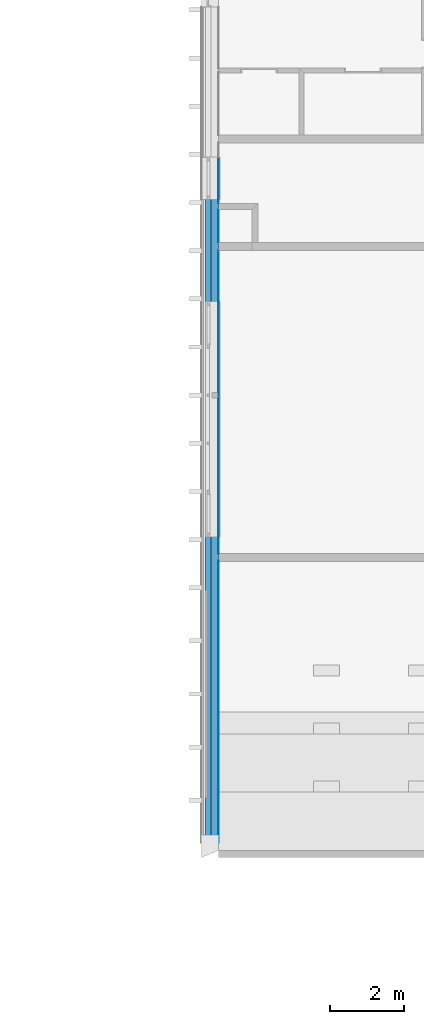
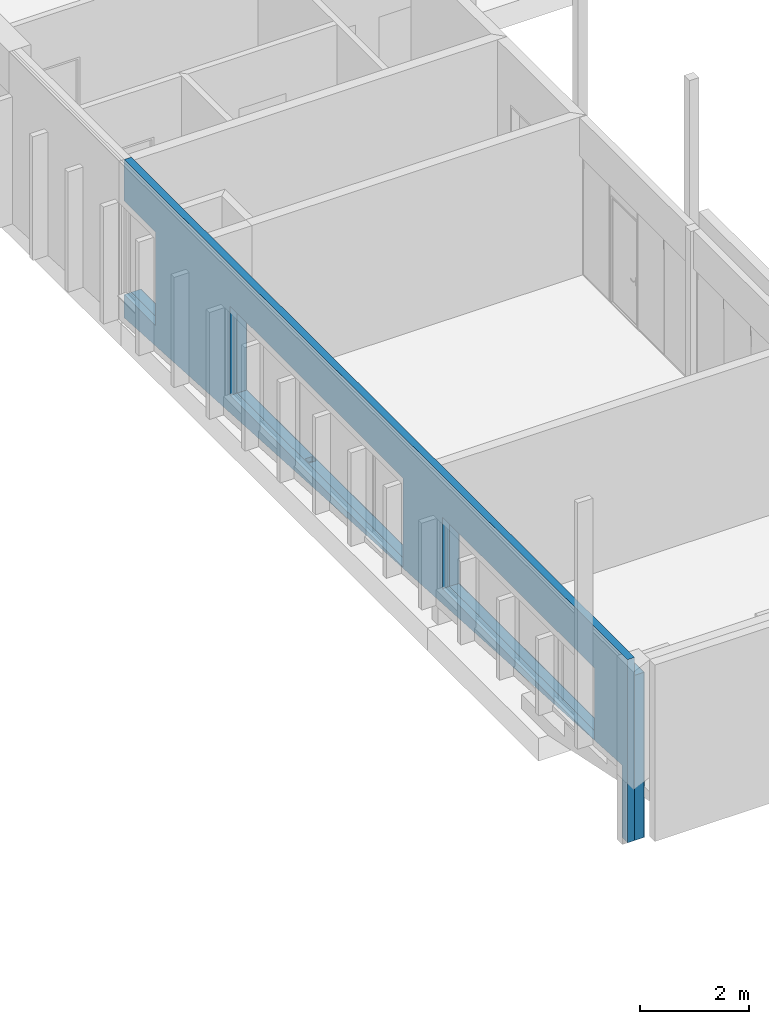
# One storey, part 61 of 65: 3 building element parts, 3 openings, 1 element without a shape of its own.
"""IFC2X3 building model written with IfcOpenShell, lengths in millimetres."""

from ifc_helpers import new_model, entity, si_unit, converted_unit, derived_unit, money_unit, direction, frame, origin_with_axes, origin_2d_with_axis, place, context, subcontext, project, spatial, polyline, rectangle, outline, extrude, boolean, faceted_brep, material, type_object, element, aggregate, save


model = new_model("IFC2X3")

# Units and contexts
model_context = context("Model", 3, precision=0.01, world=origin_with_axes(), true_north=direction((0.0, 1.0)))
body_context = subcontext(model_context, "Body", "Model", "MODEL_VIEW")
ifc_project = project(units=[si_unit("LENGTHUNIT", "METRE", prefix="MILLI"), si_unit("AREAUNIT", "SQUARE_METRE"), si_unit("VOLUMEUNIT", "CUBIC_METRE"), converted_unit("PLANEANGLEUNIT", "DEGREE", entity("IfcPlaneAngleMeasure", 0.0174532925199), si_unit("PLANEANGLEUNIT", "RADIAN"), dimensions=[0, 0, 0, 0, 0, 0, 0]), si_unit("SOLIDANGLEUNIT", "STERADIAN"), money_unit("EUR"), converted_unit("TIMEUNIT", "Year", entity("IfcTimeMeasure", 31556926.0), si_unit("TIMEUNIT", "SECOND"), dimensions=[0, 0, 1, 0, 0, 0, 0]), si_unit("MASSUNIT", "GRAM", prefix="KILO"), si_unit("THERMODYNAMICTEMPERATUREUNIT", "DEGREE_CELSIUS"), si_unit("LUMINOUSINTENSITYUNIT", "LUMEN"), si_unit("ENERGYUNIT", "JOULE", prefix="MEGA"), derived_unit("THERMALCONDUCTANCEUNIT", [(si_unit("POWERUNIT", "WATT"), 1), (si_unit("LENGTHUNIT", "METRE"), -1), (si_unit("THERMODYNAMICTEMPERATUREUNIT", "KELVIN"), -1)]), derived_unit("SPECIFICHEATCAPACITYUNIT", [(si_unit("ENERGYUNIT", "JOULE"), 1), (si_unit("MASSUNIT", "GRAM", prefix="KILO"), -1), (si_unit("THERMODYNAMICTEMPERATUREUNIT", "KELVIN"), -1)]), derived_unit("MASSDENSITYUNIT", [(si_unit("MASSUNIT", "GRAM", prefix="KILO"), 1), (si_unit("VOLUMEUNIT", "CUBIC_METRE"), -1)])], contexts=[model_context])

# Site, building, storey
site_placement = place(None, origin_with_axes())
site = spatial("IfcSite", under=ifc_project, at=site_placement, Name="Puškini 31, Narva", CompositionType="ELEMENT")
building_placement = place(site_placement, origin_with_axes())
building = spatial("IfcBuilding", under=site, at=building_placement, Name="Narva Riigigümnaasium", CompositionType="ELEMENT")
storey_placement = place(building_placement, frame((0.0, 0.0, -1320.0), z_axis=(0.0, 0.0, 1.0), x_axis=(1.0, 0.0, 0.0)))
storey = spatial("IfcBuildingStorey", under=building, at=storey_placement, Name="1.korrus -1.32", CompositionType="ELEMENT", Elevation=-1320.0)

# Wall, openings, building element parts
wall_type = type_object("IfcWallType", Name="G-VS-01 468", PredefinedType="NOTDEFINED")
wall_placement = place(storey_placement, frame((22399.9999985, 159399.999992, -150.0), z_axis=(0.0, 0.0, 1.0), x_axis=(0.0, 1.0, 0.0)))
wall = element("IfcWall", 1, at=wall_placement, inside=storey, type_object=wall_type, Name="Välissein")
opening_1_placement = place(wall_placement, frame((11435.1499909, 0.0, 1180.0), z_axis=(0.0, 0.0, 1.0), x_axis=(1.0, 0.0, 0.0)))
element("IfcOpeningElement", 2, at=opening_1_placement, cuts=wall, Name="G-A-34", context=body_context, shape_type="SweptSolid", body=[
    extrude(rectangle(XDim=6350.0, YDim=2000.0, at=origin_2d_with_axis()), frame((0.0, 308.0, 1000.0), z_axis=(0.0, 1.0, 0.0), x_axis=(-1.0, 0.0, 0.0)), (0.0, 0.0, -1.0), 786.0),
    extrude(rectangle(XDim=6350.0, YDim=2000.0, at=origin_2d_with_axis()), frame((0.0, 308.0, 1000.0), z_axis=(0.0, -1.0, 0.0), x_axis=(-1.0, 0.0, 0.0)), (0.0, 0.0, -1.0), 618.0),
])
opening_2_placement = place(wall_placement, frame((17935.1499909, 0.0, 1080.0), z_axis=(0.0, 0.0, 1.0), x_axis=(1.0, 0.0, 0.0)))
element("IfcOpeningElement", 3, at=opening_2_placement, cuts=wall, Name="G-A-29", context=body_context, shape_type="SweptSolid", body=[
    extrude(rectangle(XDim=1150.0, YDim=2100.0, at=origin_2d_with_axis()), frame((0.0, 308.0, 1050.0), z_axis=(0.0, 1.0, 0.0), x_axis=(-1.0, 0.0, 0.0)), (0.0, 0.0, -1.0), 786.0),
    extrude(rectangle(XDim=1150.0, YDim=2100.0, at=origin_2d_with_axis()), frame((0.0, 308.0, 1050.0), z_axis=(0.0, -1.0, 0.0), x_axis=(-1.0, 0.0, 0.0)), (0.0, 0.0, -1.0), 618.0),
])
opening_3_placement = place(wall_placement, frame((4017.57498516, 0.0, 1570.0), z_axis=(0.0, 0.0, 1.0), x_axis=(1.0, 0.0, 0.0)))
element("IfcOpeningElement", 4, at=opening_3_placement, cuts=wall, Name="G-A-33", context=body_context, shape_type="SweptSolid", body=[
    extrude(rectangle(XDim=5585.15001141, YDim=1610.0, at=origin_2d_with_axis()), frame((0.0, 308.0, 805.0), z_axis=(0.0, 1.0, 0.0), x_axis=(-1.0, 0.0, 0.0)), (0.0, 0.0, -1.0), 786.0),
    extrude(rectangle(XDim=5585.15001141, YDim=1610.0, at=origin_2d_with_axis()), frame((0.0, 308.0, 805.0), z_axis=(0.0, -1.0, 0.0), x_axis=(-1.0, 0.0, 0.0)), (0.0, 0.0, -1.0), 618.0),
])
ifc_material_1 = material(Name="Salto-siseviimistlus-seinad")
building_element_part_1_placement = place(wall_placement, origin_with_axes())
solid_1 = boolean("DIFFERENCE", boolean("DIFFERENCE", boolean("DIFFERENCE", boolean("DIFFERENCE", boolean("DIFFERENCE", boolean("DIFFERENCE", boolean("DIFFERENCE", boolean("DIFFERENCE", extrude(outline(polyline([(-249.999991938, -10.0), (18510.1499995, -10.0), (18510.1499995, 0.0), (-249.999991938, 0.0), (-249.999991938, -10.0)])), origin_with_axes(), (0.0, 0.0, 1.0), 4110.0), faceted_brep([(17250.0001235, 0.0, 632.298081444), (18510.1499995, 0.0, 559.236469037), (18510.1499995, 0.0, 0.0), (210.000008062, 0.0, 0.0), (210.000008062, 0.0, 1620.25190156), (7609.99994589, 0.0, 1191.21092985), (7609.99994359, 0.0, 3705.0), (1.23677068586e-06, 0.0, 3705.0), (8.06181787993e-06, 0.0, 1470.0), (8.06181787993e-06, 0.0, 640.0), (0.0, 0.0, 0.0), (-249.999991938, 0.0, 0.0), (-249.999991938, 0.0, 4110.0), (18510.1499995, 0.0, 4110.0), (18510.1499995, 0.0, 3705.0), (17250.0001235, 0.0, 3705.0), (7799.99994358, 0.0, 1180.19501305), (16000.0001235, 0.0, 704.771219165), (16000.0001235, 0.0, 3705.0), (7799.99994358, 0.0, 3705.0), (16200.0001235, 0.0, 693.17551713), (17100.0001235, 0.0, 640.994857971), (17100.0001235, 0.0, 3705.0), (16200.0001235, 0.0, 3705.0), (17250.0001235, -10.0, 632.298081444), (18510.1499995, -10.0, 559.236469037), (18510.1499995, -10.0, 0.0), (210.000008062, -10.0, 0.0), (210.000008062, -10.0, 1620.25190156), (7609.99994589, -10.0, 1191.21092985), (7609.99994359, -10.0, 3705.0), (1.23677068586e-06, -10.0, 3705.0), (8.06181787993e-06, -10.0, 1470.0), (8.06181787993e-06, -10.0, 640.0), (0.0, -10.0, 0.0), (-249.999991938, -10.0, 0.0), (-249.999991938, -10.0, 4110.0), (18510.1499995, -10.0, 4110.0), (18510.1499995, -9.99999999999, 3705.0), (17250.0001235, -10.0, 3705.0), (7799.99994358, -10.0, 1180.19501305), (16000.0001235, -10.0, 704.771219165), (16000.0001235, -10.0, 3705.0), (7799.99994358, -10.0, 3705.0), (16200.0001235, -10.0, 693.17551713), (17100.0001235, -10.0, 640.994857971), (17100.0001235, -10.0, 3705.0), (16200.0001235, -10.0, 3705.0)], [[[0, 1, 2, 3, 4, 5, 6, 7, 8, 9, 10, 11, 12, 13, 14, 15], [16, 17, 18, 19], [20, 21, 22, 23]], [[24, 25, 1, 0]], [[1, 25, 26, 2]], [[27, 3, 2, 26]], [[27, 28, 4, 3]], [[28, 29, 5, 4]], [[29, 30, 6, 5]], [[30, 31, 7, 6]], [[31, 32, 33, 34, 10, 9, 8, 7]], [[10, 34, 35, 11]], [[36, 12, 11, 35]], [[13, 12, 36, 37]], [[38, 14, 13, 37]], [[14, 38, 39, 15]], [[39, 24, 0, 15]], [[40, 41, 17, 16]], [[41, 42, 18, 17]], [[42, 43, 19, 18]], [[43, 40, 16, 19]], [[44, 45, 21, 20]], [[45, 46, 22, 21]], [[46, 47, 23, 22]], [[47, 44, 20, 23]], [[24, 39, 38, 37, 36, 35, 34, 33, 32, 31, 30, 29, 28, 27, 26, 25], [40, 43, 42, 41], [44, 47, 46, 45]]])), faceted_brep([(18510.1499995, 200.0, 559.236469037), (18510.1499995, 0.0, 559.236469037), (18510.1499995, 0.0, 0.0), (18510.1499995, 200.0, 0.0), (17250.0001235, 0.0, 632.298081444), (210.000008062, 200.0, 1620.25190156), (210.000008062, 0.0, 1620.25190156), (7609.99994589, 0.0, 1191.21092985), (7799.99994358, 0.0, 1180.19501305), (16000.0001235, 0.0, 704.771219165), (16200.0001235, 0.0, 693.17551713), (17100.0001235, 0.0, 640.994857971), (210.000008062, 0.0, 0.0), (210.000008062, 200.0, 0.0)], [[[0, 1, 2, 3]], [[4, 1, 0, 5, 6, 7, 8, 9, 10, 11]], [[6, 12, 2, 1, 4, 11, 10, 9, 8, 7]], [[12, 13, 3, 2]], [[5, 0, 3, 13]], [[12, 6, 5, 13]]])), faceted_brep([(18510.1499995, 0.0, 3705.0), (18510.1499995, 0.0, 4110.0), (-249.999991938, 0.0, 4110.0), (-249.999991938, 0.0, 0.0), (0.0, 0.0, 0.0), (8.06181787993e-06, 0.0, 640.0), (8.06181787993e-06, 0.0, 1470.0), (1.23677068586e-06, 0.0, 3705.0), (18510.1499995, 199.999955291, 3705.0), (18510.1499995, 200.0, 4110.0), (-249.999991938, 200.0, 4110.0), (-249.999991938, 200.0, 0.0), (0.0, 200.0, 0.0), (8.06181787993e-06, 200.0, 640.0), (8.06181787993e-06, 200.0, 1470.0), (1.23674226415e-06, 199.999955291, 3705.0)], [[[0, 1, 2, 3, 4, 5, 6, 7]], [[0, 8, 9, 1]], [[9, 10, 2, 1]], [[2, 10, 11, 3]], [[12, 4, 3, 11]], [[5, 4, 12, 13]], [[13, 14, 6, 5]], [[7, 6, 14, 15]], [[8, 0, 7, 15]], [[13, 12, 11, 10, 9, 8, 15, 14]]])), faceted_brep([(12010.1512799, 25.0, 3250.0), (12010.1512799, 175.0, 3250.0), (12010.1512799, 175.0, 1080.0), (12010.1512799, 25.0, 1080.0), (12160.1512799, 25.0, 3250.0), (12160.1512799, 175.0, 3250.0), (12160.1512799, 175.0, 1080.0), (12160.1512799, 25.0, 1080.0)], [[[0, 1, 2, 3]], [[4, 5, 1, 0]], [[1, 5, 6, 2]], [[7, 3, 2, 6]], [[4, 0, 3, 7]], [[5, 4, 7, 6]]])), faceted_brep([(8.06181787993e-06, 200.0, 1470.0), (1.23674226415e-06, 199.999955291, 3705.0), (0.0, 200.0, 4110.0), (-249.999991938, 200.0, 4110.0), (-249.999991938, 200.0, 0.0), (0.0, 200.0, 0.0), (8.06181787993e-06, 200.0, 640.0), (0.0, 350.0, 4110.0), (8.06181787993e-06, 350.0, 1470.0), (-249.999991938, 350.0, 4110.0), (-249.999991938, 350.0, 0.0), (0.0, 350.0, 0.0), (8.06181787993e-06, 350.0, 640.0)], [[[0, 1, 2, 3, 4, 5, 6]], [[7, 2, 1, 0, 8]], [[2, 7, 9, 3]], [[3, 9, 10, 4]], [[11, 5, 4, 10]], [[6, 5, 11, 12]], [[12, 8, 0, 6]], [[12, 11, 10, 9, 7, 8]]])), faceted_brep([(18510.1499995, 350.0, 559.236469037), (18510.1499995, 200.0, 559.236469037), (18510.1499995, 200.0, 0.0), (18510.1499995, 350.0, 0.0), (210.000008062, 200.0, 1620.25190156), (210.000008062, 350.0, 1620.25190156), (210.000008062, 200.0, 0.0), (210.000008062, 350.0, 0.0)], [[[0, 1, 2, 3]], [[4, 1, 0, 5]], [[4, 6, 2, 1]], [[6, 7, 3, 2]], [[5, 0, 3, 7]], [[6, 4, 5, 7]]])), faceted_brep([(8.06181787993e-06, 350.0, 640.0), (8.06181787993e-06, 350.0, 1470.0), (0.0, 350.0, 4110.0), (-249.999991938, 350.0, 4110.0), (-249.999991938, 350.0, 0.0), (0.0, 350.0, 0.0), (8.06181787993e-06, 400.0, 640.0), (8.06181787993e-06, 400.0, 1470.0), (0.0, 400.0, 4110.0), (-249.999991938, 400.0, 4110.0), (-249.999991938, 400.0, 0.0), (0.0, 400.0, 0.0)], [[[0, 1, 2, 3, 4, 5]], [[1, 0, 6, 7]], [[8, 2, 1, 7]], [[2, 8, 9, 3]], [[3, 9, 10, 4]], [[11, 5, 4, 10]], [[0, 5, 11, 6]], [[6, 11, 10, 9, 8, 7]]])), faceted_brep([(18510.1499995, 400.0, 559.236469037), (18510.1499995, 350.0, 559.236469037), (18510.1499995, 350.0, 0.0), (18510.1499995, 400.0, 0.0), (210.000008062, 350.0, 1620.25190156), (210.000008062, 400.0, 1620.25190156), (210.000008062, 350.0, 0.0), (210.000008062, 400.0, 0.0)], [[[0, 1, 2, 3]], [[4, 1, 0, 5]], [[4, 6, 2, 1]], [[6, 7, 3, 2]], [[5, 0, 3, 7]], [[6, 4, 5, 7]]]))
building_element_part_1 = element("IfcBuildingElementPart", 5, at=building_element_part_1_placement, material=ifc_material_1, Name="Salto-siseviimistlus-seinad", context=body_context, shape_type="CSG", body=[
    boolean("DIFFERENCE", boolean("DIFFERENCE", boolean("DIFFERENCE", boolean("DIFFERENCE", solid_1, faceted_brep([(8.06181787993e-06, 400.0, 640.0), (8.06181787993e-06, 400.0, 1470.0), (0.0, 400.0, 4110.0), (-249.999991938, 400.0, 4110.0), (-249.999991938, 400.0, 0.0), (0.0, 400.0, 0.0), (8.06181787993e-06, 450.0, 640.0), (8.06181787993e-06, 450.0, 1470.0), (0.0, 450.0, 4110.0), (-249.999991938, 450.0, 4110.0), (-249.999991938, 450.0, 0.0), (0.0, 450.0, 0.0)], [[[0, 1, 2, 3, 4, 5]], [[1, 0, 6, 7]], [[8, 2, 1, 7]], [[2, 8, 9, 3]], [[9, 10, 4, 3]], [[11, 5, 4, 10]], [[0, 5, 11, 6]], [[6, 11, 10, 9, 8, 7]]])), faceted_brep([(18510.1499995, 450.0, 559.236469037), (18510.1499995, 400.0, 559.236469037), (18510.1499995, 400.0, 0.0), (18510.1499995, 450.0, 0.0), (210.000008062, 400.0, 1620.25190156), (210.000008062, 450.0, 1620.25190156), (210.000008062, 400.0, 0.0), (210.000008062, 450.0, 0.0)], [[[0, 1, 2, 3]], [[4, 1, 0, 5]], [[4, 6, 2, 1]], [[6, 7, 3, 2]], [[5, 0, 3, 7]], [[6, 4, 5, 7]]])), faceted_brep([(8.06181787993e-06, 450.0, 640.0), (8.06181787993e-06, 450.0, 1470.0), (0.0, 450.0, 4110.0), (-249.999991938, 450.0, 4110.0), (-249.999991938, 450.0, 0.0), (0.0, 450.0, 0.0), (8.06181787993e-06, 458.0, 640.0), (8.06181787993e-06, 458.0, 1470.0), (0.0, 458.0, 4110.0), (-249.999991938, 458.0, 4110.0), (-249.999991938, 458.0, 0.0), (0.0, 458.0, 0.0)], [[[0, 1, 2, 3, 4, 5]], [[1, 0, 6, 7]], [[8, 2, 1, 7]], [[2, 8, 9, 3]], [[9, 10, 4, 3]], [[11, 5, 4, 10]], [[0, 5, 11, 6]], [[6, 11, 10, 9, 8, 7]]])), faceted_brep([(18510.1499995, 458.0, 559.236469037), (18510.1499995, 450.0, 559.236469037), (18510.1499995, 450.0, 0.0), (18510.1499995, 458.0, 0.0), (210.000008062, 450.0, 1620.25190156), (210.000008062, 458.0, 1620.25190156), (210.000008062, 450.0, 0.0), (210.000008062, 458.0, 0.0)], [[[0, 1, 2, 3]], [[4, 1, 0, 5]], [[4, 6, 2, 1]], [[6, 7, 3, 2]], [[5, 0, 3, 7]], [[6, 4, 5, 7]]])),
])
ifc_material_2 = material(Name="Betoon element")
building_element_part_2_placement = place(wall_placement, origin_with_axes())
solid_2 = boolean("DIFFERENCE", boolean("DIFFERENCE", boolean("DIFFERENCE", boolean("DIFFERENCE", boolean("DIFFERENCE", boolean("DIFFERENCE", boolean("DIFFERENCE", boolean("DIFFERENCE", extrude(outline(polyline([(-249.999991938, 0.0), (18510.1499995, 0.0), (18510.1499995, 200.0), (-249.999991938, 200.0), (-249.999991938, 0.0)])), origin_with_axes(), (0.0, 0.0, 1.0), 4110.0), faceted_brep([(17250.0001235, 0.0, 632.298081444), (18510.1499995, 0.0, 559.236469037), (18510.1499995, 0.0, 0.0), (210.000008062, 0.0, 0.0), (210.000008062, 0.0, 1620.25190156), (7609.99994589, 0.0, 1191.21092985), (7609.99994359, 0.0, 3705.0), (1.23677068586e-06, 0.0, 3705.0), (8.06181787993e-06, 0.0, 1470.0), (8.06181787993e-06, 0.0, 640.0), (0.0, 0.0, 0.0), (-249.999991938, 0.0, 0.0), (-249.999991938, 0.0, 4110.0), (18510.1499995, 0.0, 4110.0), (18510.1499995, 0.0, 3705.0), (17250.0001235, 0.0, 3705.0), (7799.99994358, 0.0, 1180.19501305), (16000.0001235, 0.0, 704.771219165), (16000.0001235, 0.0, 3705.0), (7799.99994358, 0.0, 3705.0), (16200.0001235, 0.0, 693.17551713), (17100.0001235, 0.0, 640.994857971), (17100.0001235, 0.0, 3705.0), (16200.0001235, 0.0, 3705.0), (17250.0001235, -10.0, 632.298081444), (18510.1499995, -10.0, 559.236469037), (18510.1499995, -10.0, 0.0), (210.000008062, -10.0, 0.0), (210.000008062, -10.0, 1620.25190156), (7609.99994589, -10.0, 1191.21092985), (7609.99994359, -10.0, 3705.0), (1.23677068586e-06, -10.0, 3705.0), (8.06181787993e-06, -10.0, 1470.0), (8.06181787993e-06, -10.0, 640.0), (0.0, -10.0, 0.0), (-249.999991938, -10.0, 0.0), (-249.999991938, -10.0, 4110.0), (18510.1499995, -10.0, 4110.0), (18510.1499995, -9.99999999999, 3705.0), (17250.0001235, -10.0, 3705.0), (7799.99994358, -10.0, 1180.19501305), (16000.0001235, -10.0, 704.771219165), (16000.0001235, -10.0, 3705.0), (7799.99994358, -10.0, 3705.0), (16200.0001235, -10.0, 693.17551713), (17100.0001235, -10.0, 640.994857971), (17100.0001235, -10.0, 3705.0), (16200.0001235, -10.0, 3705.0)], [[[0, 1, 2, 3, 4, 5, 6, 7, 8, 9, 10, 11, 12, 13, 14, 15], [16, 17, 18, 19], [20, 21, 22, 23]], [[24, 25, 1, 0]], [[1, 25, 26, 2]], [[27, 3, 2, 26]], [[27, 28, 4, 3]], [[28, 29, 5, 4]], [[29, 30, 6, 5]], [[30, 31, 7, 6]], [[31, 32, 33, 34, 10, 9, 8, 7]], [[10, 34, 35, 11]], [[36, 12, 11, 35]], [[13, 12, 36, 37]], [[38, 14, 13, 37]], [[14, 38, 39, 15]], [[39, 24, 0, 15]], [[40, 41, 17, 16]], [[41, 42, 18, 17]], [[42, 43, 19, 18]], [[43, 40, 16, 19]], [[44, 45, 21, 20]], [[45, 46, 22, 21]], [[46, 47, 23, 22]], [[47, 44, 20, 23]], [[24, 39, 38, 37, 36, 35, 34, 33, 32, 31, 30, 29, 28, 27, 26, 25], [40, 43, 42, 41], [44, 47, 46, 45]]])), faceted_brep([(18510.1499995, 200.0, 559.236469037), (18510.1499995, 0.0, 559.236469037), (18510.1499995, 0.0, 0.0), (18510.1499995, 200.0, 0.0), (17250.0001235, 0.0, 632.298081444), (210.000008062, 200.0, 1620.25190156), (210.000008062, 0.0, 1620.25190156), (7609.99994589, 0.0, 1191.21092985), (7799.99994358, 0.0, 1180.19501305), (16000.0001235, 0.0, 704.771219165), (16200.0001235, 0.0, 693.17551713), (17100.0001235, 0.0, 640.994857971), (210.000008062, 0.0, 0.0), (210.000008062, 200.0, 0.0)], [[[0, 1, 2, 3]], [[4, 1, 0, 5, 6, 7, 8, 9, 10, 11]], [[6, 12, 2, 1, 4, 11, 10, 9, 8, 7]], [[12, 13, 3, 2]], [[5, 0, 3, 13]], [[12, 6, 5, 13]]])), faceted_brep([(18510.1499995, 0.0, 3705.0), (18510.1499995, 0.0, 4110.0), (-249.999991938, 0.0, 4110.0), (-249.999991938, 0.0, 0.0), (0.0, 0.0, 0.0), (8.06181787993e-06, 0.0, 640.0), (8.06181787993e-06, 0.0, 1470.0), (1.23677068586e-06, 0.0, 3705.0), (18510.1499995, 199.999955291, 3705.0), (18510.1499995, 200.0, 4110.0), (-249.999991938, 200.0, 4110.0), (-249.999991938, 200.0, 0.0), (0.0, 200.0, 0.0), (8.06181787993e-06, 200.0, 640.0), (8.06181787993e-06, 200.0, 1470.0), (1.23674226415e-06, 199.999955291, 3705.0)], [[[0, 1, 2, 3, 4, 5, 6, 7]], [[0, 8, 9, 1]], [[9, 10, 2, 1]], [[2, 10, 11, 3]], [[12, 4, 3, 11]], [[5, 4, 12, 13]], [[13, 14, 6, 5]], [[7, 6, 14, 15]], [[8, 0, 7, 15]], [[13, 12, 11, 10, 9, 8, 15, 14]]])), faceted_brep([(12010.1512799, 25.0, 3250.0), (12010.1512799, 175.0, 3250.0), (12010.1512799, 175.0, 1080.0), (12010.1512799, 25.0, 1080.0), (12160.1512799, 25.0, 3250.0), (12160.1512799, 175.0, 3250.0), (12160.1512799, 175.0, 1080.0), (12160.1512799, 25.0, 1080.0)], [[[0, 1, 2, 3]], [[4, 5, 1, 0]], [[1, 5, 6, 2]], [[7, 3, 2, 6]], [[4, 0, 3, 7]], [[5, 4, 7, 6]]])), faceted_brep([(8.06181787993e-06, 200.0, 1470.0), (1.23674226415e-06, 199.999955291, 3705.0), (0.0, 200.0, 4110.0), (-249.999991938, 200.0, 4110.0), (-249.999991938, 200.0, 0.0), (0.0, 200.0, 0.0), (8.06181787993e-06, 200.0, 640.0), (0.0, 350.0, 4110.0), (8.06181787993e-06, 350.0, 1470.0), (-249.999991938, 350.0, 4110.0), (-249.999991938, 350.0, 0.0), (0.0, 350.0, 0.0), (8.06181787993e-06, 350.0, 640.0)], [[[0, 1, 2, 3, 4, 5, 6]], [[7, 2, 1, 0, 8]], [[2, 7, 9, 3]], [[3, 9, 10, 4]], [[11, 5, 4, 10]], [[6, 5, 11, 12]], [[12, 8, 0, 6]], [[12, 11, 10, 9, 7, 8]]])), faceted_brep([(18510.1499995, 350.0, 559.236469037), (18510.1499995, 200.0, 559.236469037), (18510.1499995, 200.0, 0.0), (18510.1499995, 350.0, 0.0), (210.000008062, 200.0, 1620.25190156), (210.000008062, 350.0, 1620.25190156), (210.000008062, 200.0, 0.0), (210.000008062, 350.0, 0.0)], [[[0, 1, 2, 3]], [[4, 1, 0, 5]], [[4, 6, 2, 1]], [[6, 7, 3, 2]], [[5, 0, 3, 7]], [[6, 4, 5, 7]]])), faceted_brep([(8.06181787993e-06, 350.0, 640.0), (8.06181787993e-06, 350.0, 1470.0), (0.0, 350.0, 4110.0), (-249.999991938, 350.0, 4110.0), (-249.999991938, 350.0, 0.0), (0.0, 350.0, 0.0), (8.06181787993e-06, 400.0, 640.0), (8.06181787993e-06, 400.0, 1470.0), (0.0, 400.0, 4110.0), (-249.999991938, 400.0, 4110.0), (-249.999991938, 400.0, 0.0), (0.0, 400.0, 0.0)], [[[0, 1, 2, 3, 4, 5]], [[1, 0, 6, 7]], [[8, 2, 1, 7]], [[2, 8, 9, 3]], [[3, 9, 10, 4]], [[11, 5, 4, 10]], [[0, 5, 11, 6]], [[6, 11, 10, 9, 8, 7]]])), faceted_brep([(18510.1499995, 400.0, 559.236469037), (18510.1499995, 350.0, 559.236469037), (18510.1499995, 350.0, 0.0), (18510.1499995, 400.0, 0.0), (210.000008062, 350.0, 1620.25190156), (210.000008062, 400.0, 1620.25190156), (210.000008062, 350.0, 0.0), (210.000008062, 400.0, 0.0)], [[[0, 1, 2, 3]], [[4, 1, 0, 5]], [[4, 6, 2, 1]], [[6, 7, 3, 2]], [[5, 0, 3, 7]], [[6, 4, 5, 7]]]))
building_element_part_2 = element("IfcBuildingElementPart", 6, at=building_element_part_2_placement, material=ifc_material_2, Name="Betoon element", context=body_context, shape_type="CSG", body=[
    boolean("DIFFERENCE", boolean("DIFFERENCE", boolean("DIFFERENCE", boolean("DIFFERENCE", solid_2, faceted_brep([(8.06181787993e-06, 400.0, 640.0), (8.06181787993e-06, 400.0, 1470.0), (0.0, 400.0, 4110.0), (-249.999991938, 400.0, 4110.0), (-249.999991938, 400.0, 0.0), (0.0, 400.0, 0.0), (8.06181787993e-06, 450.0, 640.0), (8.06181787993e-06, 450.0, 1470.0), (0.0, 450.0, 4110.0), (-249.999991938, 450.0, 4110.0), (-249.999991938, 450.0, 0.0), (0.0, 450.0, 0.0)], [[[0, 1, 2, 3, 4, 5]], [[1, 0, 6, 7]], [[8, 2, 1, 7]], [[2, 8, 9, 3]], [[9, 10, 4, 3]], [[11, 5, 4, 10]], [[0, 5, 11, 6]], [[6, 11, 10, 9, 8, 7]]])), faceted_brep([(18510.1499995, 450.0, 559.236469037), (18510.1499995, 400.0, 559.236469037), (18510.1499995, 400.0, 0.0), (18510.1499995, 450.0, 0.0), (210.000008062, 400.0, 1620.25190156), (210.000008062, 450.0, 1620.25190156), (210.000008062, 400.0, 0.0), (210.000008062, 450.0, 0.0)], [[[0, 1, 2, 3]], [[4, 1, 0, 5]], [[4, 6, 2, 1]], [[6, 7, 3, 2]], [[5, 0, 3, 7]], [[6, 4, 5, 7]]])), faceted_brep([(8.06181787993e-06, 450.0, 640.0), (8.06181787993e-06, 450.0, 1470.0), (0.0, 450.0, 4110.0), (-249.999991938, 450.0, 4110.0), (-249.999991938, 450.0, 0.0), (0.0, 450.0, 0.0), (8.06181787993e-06, 458.0, 640.0), (8.06181787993e-06, 458.0, 1470.0), (0.0, 458.0, 4110.0), (-249.999991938, 458.0, 4110.0), (-249.999991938, 458.0, 0.0), (0.0, 458.0, 0.0)], [[[0, 1, 2, 3, 4, 5]], [[1, 0, 6, 7]], [[8, 2, 1, 7]], [[2, 8, 9, 3]], [[9, 10, 4, 3]], [[11, 5, 4, 10]], [[0, 5, 11, 6]], [[6, 11, 10, 9, 8, 7]]])), faceted_brep([(18510.1499995, 458.0, 559.236469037), (18510.1499995, 450.0, 559.236469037), (18510.1499995, 450.0, 0.0), (18510.1499995, 458.0, 0.0), (210.000008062, 450.0, 1620.25190156), (210.000008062, 458.0, 1620.25190156), (210.000008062, 450.0, 0.0), (210.000008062, 458.0, 0.0)], [[[0, 1, 2, 3]], [[4, 1, 0, 5]], [[4, 6, 2, 1]], [[6, 7, 3, 2]], [[5, 0, 3, 7]], [[6, 4, 5, 7]]])),
])
ifc_material_3 = material(Name="Salto-PIR soojustus")
building_element_part_3_placement = place(wall_placement, origin_with_axes())
solid_3 = boolean("DIFFERENCE", boolean("DIFFERENCE", boolean("DIFFERENCE", boolean("DIFFERENCE", boolean("DIFFERENCE", boolean("DIFFERENCE", boolean("DIFFERENCE", boolean("DIFFERENCE", extrude(outline(polyline([(-249.999991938, 200.0), (18510.1499995, 200.0), (18510.1499995, 350.0), (-249.999991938, 350.0), (-249.999991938, 200.0)])), origin_with_axes(), (0.0, 0.0, 1.0), 4110.0), faceted_brep([(17250.0001235, 0.0, 632.298081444), (18510.1499995, 0.0, 559.236469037), (18510.1499995, 0.0, 0.0), (210.000008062, 0.0, 0.0), (210.000008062, 0.0, 1620.25190156), (7609.99994589, 0.0, 1191.21092985), (7609.99994359, 0.0, 3705.0), (1.23677068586e-06, 0.0, 3705.0), (8.06181787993e-06, 0.0, 1470.0), (8.06181787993e-06, 0.0, 640.0), (0.0, 0.0, 0.0), (-249.999991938, 0.0, 0.0), (-249.999991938, 0.0, 4110.0), (18510.1499995, 0.0, 4110.0), (18510.1499995, 0.0, 3705.0), (17250.0001235, 0.0, 3705.0), (7799.99994358, 0.0, 1180.19501305), (16000.0001235, 0.0, 704.771219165), (16000.0001235, 0.0, 3705.0), (7799.99994358, 0.0, 3705.0), (16200.0001235, 0.0, 693.17551713), (17100.0001235, 0.0, 640.994857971), (17100.0001235, 0.0, 3705.0), (16200.0001235, 0.0, 3705.0), (17250.0001235, -10.0, 632.298081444), (18510.1499995, -10.0, 559.236469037), (18510.1499995, -10.0, 0.0), (210.000008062, -10.0, 0.0), (210.000008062, -10.0, 1620.25190156), (7609.99994589, -10.0, 1191.21092985), (7609.99994359, -10.0, 3705.0), (1.23677068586e-06, -10.0, 3705.0), (8.06181787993e-06, -10.0, 1470.0), (8.06181787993e-06, -10.0, 640.0), (0.0, -10.0, 0.0), (-249.999991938, -10.0, 0.0), (-249.999991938, -10.0, 4110.0), (18510.1499995, -10.0, 4110.0), (18510.1499995, -9.99999999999, 3705.0), (17250.0001235, -10.0, 3705.0), (7799.99994358, -10.0, 1180.19501305), (16000.0001235, -10.0, 704.771219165), (16000.0001235, -10.0, 3705.0), (7799.99994358, -10.0, 3705.0), (16200.0001235, -10.0, 693.17551713), (17100.0001235, -10.0, 640.994857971), (17100.0001235, -10.0, 3705.0), (16200.0001235, -10.0, 3705.0)], [[[0, 1, 2, 3, 4, 5, 6, 7, 8, 9, 10, 11, 12, 13, 14, 15], [16, 17, 18, 19], [20, 21, 22, 23]], [[24, 25, 1, 0]], [[1, 25, 26, 2]], [[27, 3, 2, 26]], [[27, 28, 4, 3]], [[28, 29, 5, 4]], [[29, 30, 6, 5]], [[30, 31, 7, 6]], [[31, 32, 33, 34, 10, 9, 8, 7]], [[10, 34, 35, 11]], [[36, 12, 11, 35]], [[13, 12, 36, 37]], [[38, 14, 13, 37]], [[14, 38, 39, 15]], [[39, 24, 0, 15]], [[40, 41, 17, 16]], [[41, 42, 18, 17]], [[42, 43, 19, 18]], [[43, 40, 16, 19]], [[44, 45, 21, 20]], [[45, 46, 22, 21]], [[46, 47, 23, 22]], [[47, 44, 20, 23]], [[24, 39, 38, 37, 36, 35, 34, 33, 32, 31, 30, 29, 28, 27, 26, 25], [40, 43, 42, 41], [44, 47, 46, 45]]])), faceted_brep([(18510.1499995, 200.0, 559.236469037), (18510.1499995, 0.0, 559.236469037), (18510.1499995, 0.0, 0.0), (18510.1499995, 200.0, 0.0), (17250.0001235, 0.0, 632.298081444), (210.000008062, 200.0, 1620.25190156), (210.000008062, 0.0, 1620.25190156), (7609.99994589, 0.0, 1191.21092985), (7799.99994358, 0.0, 1180.19501305), (16000.0001235, 0.0, 704.771219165), (16200.0001235, 0.0, 693.17551713), (17100.0001235, 0.0, 640.994857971), (210.000008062, 0.0, 0.0), (210.000008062, 200.0, 0.0)], [[[0, 1, 2, 3]], [[4, 1, 0, 5, 6, 7, 8, 9, 10, 11]], [[6, 12, 2, 1, 4, 11, 10, 9, 8, 7]], [[12, 13, 3, 2]], [[5, 0, 3, 13]], [[12, 6, 5, 13]]])), faceted_brep([(18510.1499995, 0.0, 3705.0), (18510.1499995, 0.0, 4110.0), (-249.999991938, 0.0, 4110.0), (-249.999991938, 0.0, 0.0), (0.0, 0.0, 0.0), (8.06181787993e-06, 0.0, 640.0), (8.06181787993e-06, 0.0, 1470.0), (1.23677068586e-06, 0.0, 3705.0), (18510.1499995, 199.999955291, 3705.0), (18510.1499995, 200.0, 4110.0), (-249.999991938, 200.0, 4110.0), (-249.999991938, 200.0, 0.0), (0.0, 200.0, 0.0), (8.06181787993e-06, 200.0, 640.0), (8.06181787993e-06, 200.0, 1470.0), (1.23674226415e-06, 199.999955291, 3705.0)], [[[0, 1, 2, 3, 4, 5, 6, 7]], [[0, 8, 9, 1]], [[9, 10, 2, 1]], [[2, 10, 11, 3]], [[12, 4, 3, 11]], [[5, 4, 12, 13]], [[13, 14, 6, 5]], [[7, 6, 14, 15]], [[8, 0, 7, 15]], [[13, 12, 11, 10, 9, 8, 15, 14]]])), faceted_brep([(12010.1512799, 25.0, 3250.0), (12010.1512799, 175.0, 3250.0), (12010.1512799, 175.0, 1080.0), (12010.1512799, 25.0, 1080.0), (12160.1512799, 25.0, 3250.0), (12160.1512799, 175.0, 3250.0), (12160.1512799, 175.0, 1080.0), (12160.1512799, 25.0, 1080.0)], [[[0, 1, 2, 3]], [[4, 5, 1, 0]], [[1, 5, 6, 2]], [[7, 3, 2, 6]], [[4, 0, 3, 7]], [[5, 4, 7, 6]]])), faceted_brep([(8.06181787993e-06, 200.0, 1470.0), (1.23674226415e-06, 199.999955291, 3705.0), (0.0, 200.0, 4110.0), (-249.999991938, 200.0, 4110.0), (-249.999991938, 200.0, 0.0), (0.0, 200.0, 0.0), (8.06181787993e-06, 200.0, 640.0), (0.0, 350.0, 4110.0), (8.06181787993e-06, 350.0, 1470.0), (-249.999991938, 350.0, 4110.0), (-249.999991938, 350.0, 0.0), (0.0, 350.0, 0.0), (8.06181787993e-06, 350.0, 640.0)], [[[0, 1, 2, 3, 4, 5, 6]], [[7, 2, 1, 0, 8]], [[2, 7, 9, 3]], [[3, 9, 10, 4]], [[11, 5, 4, 10]], [[6, 5, 11, 12]], [[12, 8, 0, 6]], [[12, 11, 10, 9, 7, 8]]])), faceted_brep([(18510.1499995, 350.0, 559.236469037), (18510.1499995, 200.0, 559.236469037), (18510.1499995, 200.0, 0.0), (18510.1499995, 350.0, 0.0), (210.000008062, 200.0, 1620.25190156), (210.000008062, 350.0, 1620.25190156), (210.000008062, 200.0, 0.0), (210.000008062, 350.0, 0.0)], [[[0, 1, 2, 3]], [[4, 1, 0, 5]], [[4, 6, 2, 1]], [[6, 7, 3, 2]], [[5, 0, 3, 7]], [[6, 4, 5, 7]]])), faceted_brep([(8.06181787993e-06, 350.0, 640.0), (8.06181787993e-06, 350.0, 1470.0), (0.0, 350.0, 4110.0), (-249.999991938, 350.0, 4110.0), (-249.999991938, 350.0, 0.0), (0.0, 350.0, 0.0), (8.06181787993e-06, 400.0, 640.0), (8.06181787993e-06, 400.0, 1470.0), (0.0, 400.0, 4110.0), (-249.999991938, 400.0, 4110.0), (-249.999991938, 400.0, 0.0), (0.0, 400.0, 0.0)], [[[0, 1, 2, 3, 4, 5]], [[1, 0, 6, 7]], [[8, 2, 1, 7]], [[2, 8, 9, 3]], [[3, 9, 10, 4]], [[11, 5, 4, 10]], [[0, 5, 11, 6]], [[6, 11, 10, 9, 8, 7]]])), faceted_brep([(18510.1499995, 400.0, 559.236469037), (18510.1499995, 350.0, 559.236469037), (18510.1499995, 350.0, 0.0), (18510.1499995, 400.0, 0.0), (210.000008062, 350.0, 1620.25190156), (210.000008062, 400.0, 1620.25190156), (210.000008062, 350.0, 0.0), (210.000008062, 400.0, 0.0)], [[[0, 1, 2, 3]], [[4, 1, 0, 5]], [[4, 6, 2, 1]], [[6, 7, 3, 2]], [[5, 0, 3, 7]], [[6, 4, 5, 7]]]))
building_element_part_3 = element("IfcBuildingElementPart", 7, at=building_element_part_3_placement, material=ifc_material_3, Name="Salto-PIR soojustus", context=body_context, shape_type="CSG", body=[
    boolean("DIFFERENCE", boolean("DIFFERENCE", boolean("DIFFERENCE", boolean("DIFFERENCE", solid_3, faceted_brep([(8.06181787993e-06, 400.0, 640.0), (8.06181787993e-06, 400.0, 1470.0), (0.0, 400.0, 4110.0), (-249.999991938, 400.0, 4110.0), (-249.999991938, 400.0, 0.0), (0.0, 400.0, 0.0), (8.06181787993e-06, 450.0, 640.0), (8.06181787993e-06, 450.0, 1470.0), (0.0, 450.0, 4110.0), (-249.999991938, 450.0, 4110.0), (-249.999991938, 450.0, 0.0), (0.0, 450.0, 0.0)], [[[0, 1, 2, 3, 4, 5]], [[1, 0, 6, 7]], [[8, 2, 1, 7]], [[2, 8, 9, 3]], [[9, 10, 4, 3]], [[11, 5, 4, 10]], [[0, 5, 11, 6]], [[6, 11, 10, 9, 8, 7]]])), faceted_brep([(18510.1499995, 450.0, 559.236469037), (18510.1499995, 400.0, 559.236469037), (18510.1499995, 400.0, 0.0), (18510.1499995, 450.0, 0.0), (210.000008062, 400.0, 1620.25190156), (210.000008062, 450.0, 1620.25190156), (210.000008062, 400.0, 0.0), (210.000008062, 450.0, 0.0)], [[[0, 1, 2, 3]], [[4, 1, 0, 5]], [[4, 6, 2, 1]], [[6, 7, 3, 2]], [[5, 0, 3, 7]], [[6, 4, 5, 7]]])), faceted_brep([(8.06181787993e-06, 450.0, 640.0), (8.06181787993e-06, 450.0, 1470.0), (0.0, 450.0, 4110.0), (-249.999991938, 450.0, 4110.0), (-249.999991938, 450.0, 0.0), (0.0, 450.0, 0.0), (8.06181787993e-06, 458.0, 640.0), (8.06181787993e-06, 458.0, 1470.0), (0.0, 458.0, 4110.0), (-249.999991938, 458.0, 4110.0), (-249.999991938, 458.0, 0.0), (0.0, 458.0, 0.0)], [[[0, 1, 2, 3, 4, 5]], [[1, 0, 6, 7]], [[8, 2, 1, 7]], [[2, 8, 9, 3]], [[9, 10, 4, 3]], [[11, 5, 4, 10]], [[0, 5, 11, 6]], [[6, 11, 10, 9, 8, 7]]])), faceted_brep([(18510.1499995, 458.0, 559.236469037), (18510.1499995, 450.0, 559.236469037), (18510.1499995, 450.0, 0.0), (18510.1499995, 458.0, 0.0), (210.000008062, 450.0, 1620.25190156), (210.000008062, 458.0, 1620.25190156), (210.000008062, 450.0, 0.0), (210.000008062, 458.0, 0.0)], [[[0, 1, 2, 3]], [[4, 1, 0, 5]], [[4, 6, 2, 1]], [[6, 7, 3, 2]], [[5, 0, 3, 7]], [[6, 4, 5, 7]]])),
])
aggregate(wall, [building_element_part_1, building_element_part_2, building_element_part_3])

save(model, "model.ifc")
